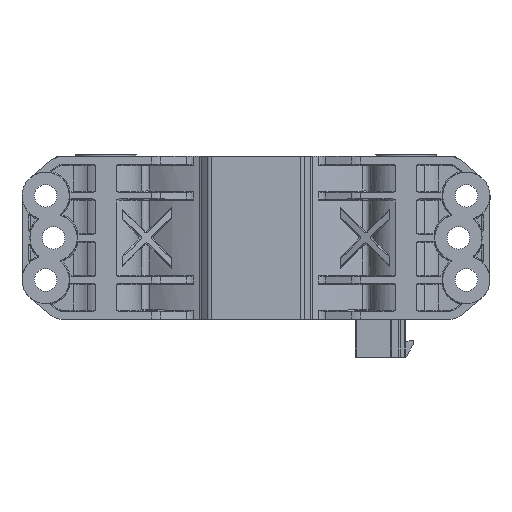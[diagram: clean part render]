
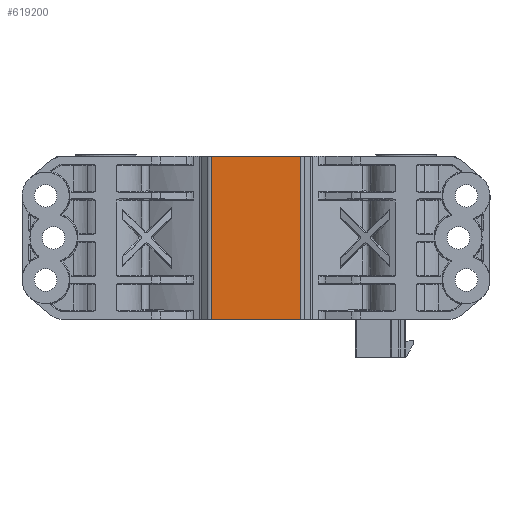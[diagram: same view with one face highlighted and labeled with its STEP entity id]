
A CAD part, front view. The second image highlights one B-rep face of the part: STEP entity #619200.
In plain terms, the highlighted planar face has unit normal (0, -1, 0).
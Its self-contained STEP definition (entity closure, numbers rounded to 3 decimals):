
#407500=CARTESIAN_POINT('',(-1.412,-136.472,
-433.415));
#407510=VERTEX_POINT('',#407500);
#407540=CARTESIAN_POINT('',(17.922,-136.472,
-433.415));
#407550=DIRECTION('',(1.,0.,0.));
#407560=VECTOR('',#407550,1.);
#407570=LINE('',#407540,#407560);
#407580=CARTESIAN_POINT('',(15.68,-136.472,
-433.415));
#407590=VERTEX_POINT('',#407580);
#407600=EDGE_CURVE('',#407510,#407590,#407570,.T.);
#618840=CARTESIAN_POINT('',(-1.412,-136.472,
-402.415));
#618850=VERTEX_POINT('',#618840);
#618880=CARTESIAN_POINT('',(-1.412,-136.472,
-402.414));
#618890=DIRECTION('',(0.,0.,-1.));
#618900=VECTOR('',#618890,1.);
#618910=LINE('',#618880,#618900);
#618920=EDGE_CURVE('',#618850,#407510,#618910,.T.);
#618970=CARTESIAN_POINT('',(-1.352,-136.472,
-433.415));
#618980=DIRECTION('',(0.,1.,0.));
#618990=DIRECTION('',(-1.,0.,0.));
#619000=AXIS2_PLACEMENT_3D('',#618970,#618980,#618990);
#619010=PLANE('',#619000);
#619020=CARTESIAN_POINT('',(17.922,-136.472,
-402.415));
#619030=DIRECTION('',(1.,0.,0.));
#619040=VECTOR('',#619030,1.);
#619050=LINE('',#619020,#619040);
#619060=CARTESIAN_POINT('',(15.68,-136.472,
-402.415));
#619070=VERTEX_POINT('',#619060);
#619080=EDGE_CURVE('',#618850,#619070,#619050,.T.);
#619090=ORIENTED_EDGE('',*,*,#619080,.F.);
#619100=CARTESIAN_POINT('',(15.68,-136.472,
-402.414));
#619110=DIRECTION('',(0.,0.,-1.));
#619120=VECTOR('',#619110,1.);
#619130=LINE('',#619100,#619120);
#619140=EDGE_CURVE('',#619070,#407590,#619130,.T.);
#619150=ORIENTED_EDGE('',*,*,#619140,.F.);
#619160=ORIENTED_EDGE('',*,*,#407600,.T.);
#619170=ORIENTED_EDGE('',*,*,#618920,.T.);
#619180=EDGE_LOOP('',(#619170,#619160,#619150,#619090));
#619190=FACE_OUTER_BOUND('',#619180,.T.);
#619200=ADVANCED_FACE('',(#619190),#619010,.F.);
